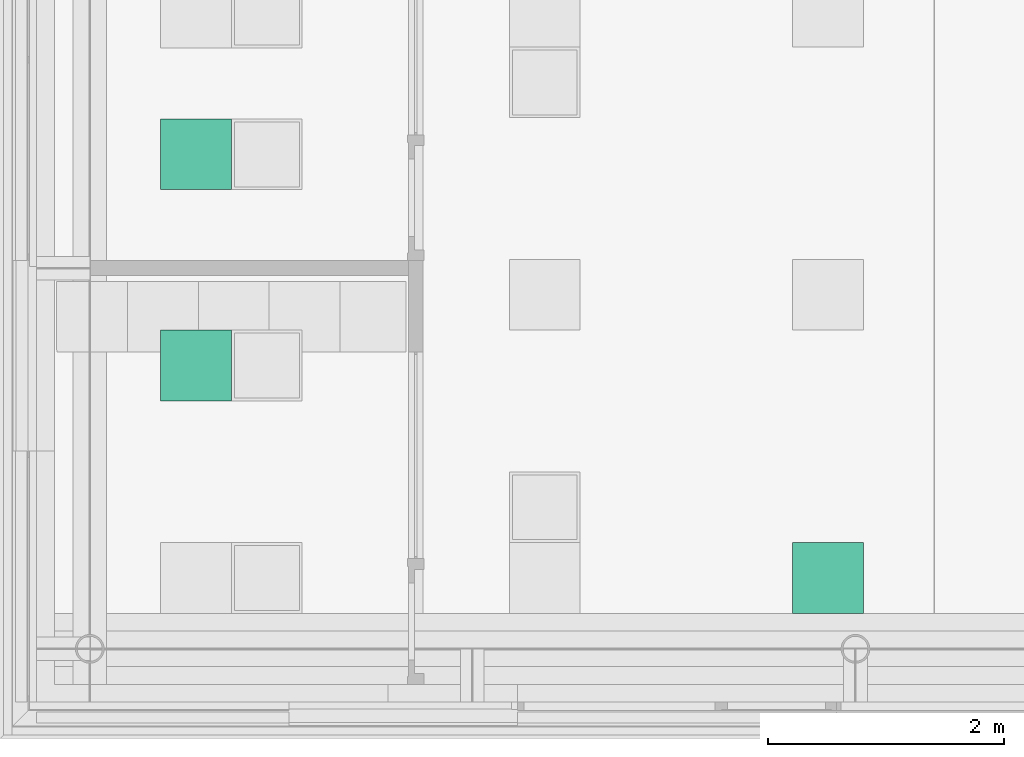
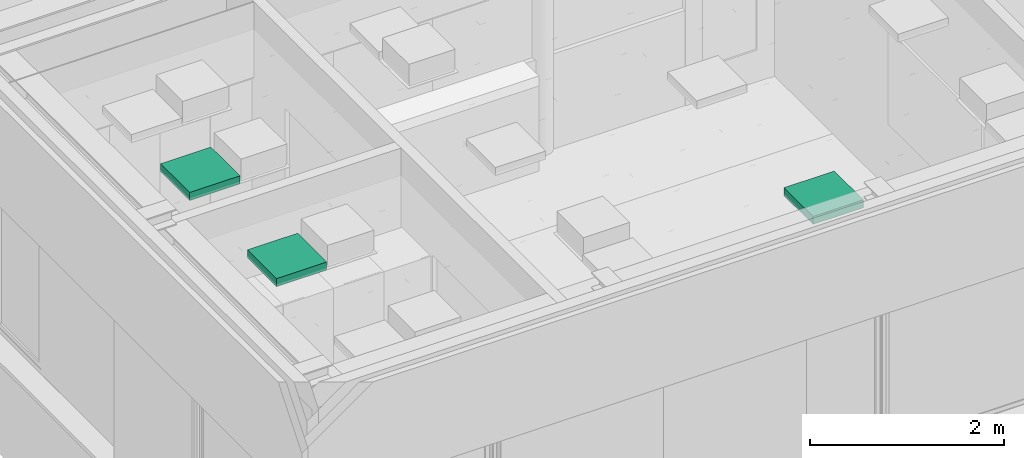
# One storey, part 183 of 347: 3 flow terminals.
"""IFC2X3 building model written with IfcOpenShell, lengths in millimetres."""

from ifc_helpers import new_model, entity, si_unit, converted_unit, derived_unit, money_unit, direction, frame, origin_with_axes, place, context, subcontext, project, spatial, open_shell, faceted_brep, surface_model, source, transform, mapped, type_object, type_shapes, element, save


model = new_model("IFC2X3")

# Units and contexts
model_context = context("Model", 3, precision=0.01, world=origin_with_axes(), true_north=direction((0.0, 1.0)))
plan_context = context("Plan", 3, precision=0.01, world=origin_with_axes(), true_north=direction((0.0, 1.0)))
body_context = subcontext(model_context, "Body", "Model", "MODEL_VIEW")
ifc_project = project(units=[si_unit("LENGTHUNIT", "METRE", prefix="MILLI"), si_unit("AREAUNIT", "SQUARE_METRE"), si_unit("VOLUMEUNIT", "CUBIC_METRE"), converted_unit("PLANEANGLEUNIT", "DEGREE", entity("IfcPlaneAngleMeasure", 0.0174532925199), si_unit("PLANEANGLEUNIT", "RADIAN"), dimensions=[0, 0, 0, 0, 0, 0, 0]), money_unit("EUR"), converted_unit("TIMEUNIT", "Year", entity("IfcTimeMeasure", 31556926.0), si_unit("TIMEUNIT", "SECOND"), dimensions=[0, 0, 1, 0, 0, 0, 0]), si_unit("MASSUNIT", "GRAM", prefix="KILO"), si_unit("THERMODYNAMICTEMPERATUREUNIT", "DEGREE_CELSIUS"), si_unit("LUMINOUSINTENSITYUNIT", "LUMEN"), si_unit("ENERGYUNIT", "JOULE", prefix="MEGA"), derived_unit("THERMALCONDUCTANCEUNIT", [(si_unit("POWERUNIT", "WATT"), 1), (si_unit("LENGTHUNIT", "METRE"), -1), (si_unit("THERMODYNAMICTEMPERATUREUNIT", "KELVIN"), -1)]), derived_unit("SPECIFICHEATCAPACITYUNIT", [(si_unit("ENERGYUNIT", "JOULE"), 1), (si_unit("MASSUNIT", "GRAM", prefix="KILO"), -1), (si_unit("THERMODYNAMICTEMPERATUREUNIT", "KELVIN"), -1)]), derived_unit("MASSDENSITYUNIT", [(si_unit("MASSUNIT", "GRAM", prefix="KILO"), 1), (si_unit("VOLUMEUNIT", "CUBIC_METRE"), -1)])], contexts=[model_context, plan_context])

# Site, building, storey
site_placement = place(None, origin_with_axes())
site = spatial("IfcSite", under=ifc_project, at=site_placement, Name="Site", CompositionType="ELEMENT")
building_placement = place(site_placement, origin_with_axes())
building = spatial("IfcBuilding", under=site, at=building_placement, Name="Naam gebouw", CompositionType="ELEMENT")
storey_placement = place(building_placement, origin_with_axes())
storey = spatial("IfcBuildingStorey", under=building, at=storey_placement, Name="begane grond", CompositionType="ELEMENT", Elevation=0.0)

# Flow terminals
lamp_type = type_object("IfcLampType", Name="TL plafond 25", PredefinedType="NOTDEFINED")
shared_shape = source(origin_with_axes(), body_context, "Body", "SurfaceModel", [
    faceted_brep([(0.0, 0.0, -100.0), (600.0, 0.0, -100.0), (600.0, 0.0, 0.0), (0.0, 0.0, 0.0), (0.0, 600.0, -100.0), (600.0, 600.0, -100.0), (40.0, 40.0, -100.0), (560.0, 40.0, -100.0), (560.0, 560.0, -100.0), (40.0, 560.0, -100.0), (600.0, 600.0, 0.0), (0.0, 600.0, 0.0), (40.0, 40.0, 0.0), (40.0, 560.0, 0.0), (560.0, 560.0, 0.0), (560.0, 40.0, 0.0)], [[[0, 1, 2, 3]], [[0, 4, 5, 1], [6, 7, 8, 9]], [[1, 5, 10, 2]], [[3, 2, 10, 11], [12, 13, 14, 15]], [[4, 0, 3, 11]], [[5, 4, 11, 10]], [[7, 6, 12, 15]], [[8, 7, 15, 14]], [[9, 8, 14, 13]], [[6, 9, 13, 12]]]),
    faceted_brep([(40.0, 40.0, -16.3333333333), (560.0, 40.0, -16.3333333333), (560.0, 40.0, 0.0), (40.0, 40.0, 0.0), (40.0, 560.0, -16.3333333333), (560.0, 560.0, -16.3333333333), (560.0, 560.0, 0.0), (40.0, 560.0, 0.0)], [[[0, 1, 2, 3]], [[0, 4, 5, 1]], [[1, 5, 6, 2]], [[3, 2, 6, 7]], [[4, 0, 3, 7]], [[5, 4, 7, 6]]]),
    surface_model("IfcShellBasedSurfaceModel", [(559.0, 41.0, -100.0), (40.0, 41.0, -100.0), (40.0, 559.0, -100.0), (559.0, 559.0, -100.0)], [open_shell([[[0, 1, 2, 3]]])]),
    faceted_brep([(40.0, 40.0, -100.0), (560.0, 40.0, -100.0), (560.0, 40.0, -60.0), (40.0, 40.0, -60.0), (40.0, 560.0, -100.0), (560.0, 560.0, -100.0), (41.0, 41.0, -100.0), (559.0, 41.0, -100.0), (559.0, 559.0, -100.0), (41.0, 559.0, -100.0), (560.0, 560.0, -60.0), (40.0, 560.0, -60.0), (41.0, 41.0, -60.0), (41.0, 559.0, -60.0), (559.0, 559.0, -60.0), (559.0, 41.0, -60.0)], [[[0, 1, 2, 3]], [[0, 4, 5, 1], [6, 7, 8, 9]], [[1, 5, 10, 2]], [[3, 2, 10, 11], [12, 13, 14, 15]], [[4, 0, 3, 11]], [[5, 4, 11, 10]], [[7, 6, 12, 15]], [[8, 7, 15, 14]], [[9, 8, 14, 13]], [[6, 9, 13, 12]]]),
    faceted_brep([(40.0, 144.0, -48.3333333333), (40.0, 149.740251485, -47.191526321), (560.0, 149.740251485, -47.191526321), (560.0, 144.0, -48.3333333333), (40.0, 138.259748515, -47.191526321), (40.0, 133.393398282, -43.9399350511), (40.0, 130.141807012, -39.0735848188), (40.0, 129.0, -33.3333333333), (40.0, 130.141807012, -27.5930818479), (40.0, 133.393398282, -22.7267316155), (40.0, 138.259748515, -19.4751403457), (40.0, 144.0, -18.3333333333), (40.0, 149.740251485, -19.4751403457), (40.0, 154.606601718, -22.7267316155), (40.0, 157.858192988, -27.5930818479), (40.0, 159.0, -33.3333333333), (40.0, 157.858192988, -39.0735848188), (40.0, 154.606601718, -43.9399350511), (40.0, 144.0, -46.3333333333), (40.0, 148.974884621, -45.343767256), (40.0, 153.192388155, -42.5257214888), (40.0, 156.010433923, -38.3082179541), (40.0, 157.0, -33.3333333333), (40.0, 156.010433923, -28.3584487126), (40.0, 153.192388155, -24.1409451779), (40.0, 148.974884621, -21.3228994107), (40.0, 144.0, -20.3333333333), (40.0, 139.025115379, -21.3228994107), (40.0, 134.807611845, -24.1409451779), (40.0, 131.989566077, -28.3584487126), (40.0, 131.0, -33.3333333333), (40.0, 131.989566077, -38.3082179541), (40.0, 134.807611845, -42.5257214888), (40.0, 139.025115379, -45.343767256), (560.0, 154.606601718, -43.9399350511), (560.0, 157.858192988, -39.0735848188), (560.0, 159.0, -33.3333333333), (560.0, 157.858192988, -27.5930818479), (560.0, 154.606601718, -22.7267316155), (560.0, 149.740251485, -19.4751403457), (560.0, 144.0, -18.3333333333), (560.0, 138.259748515, -19.4751403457), (560.0, 133.393398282, -22.7267316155), (560.0, 130.141807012, -27.5930818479), (560.0, 129.0, -33.3333333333), (560.0, 130.141807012, -39.0735848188), (560.0, 133.393398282, -43.9399350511), (560.0, 138.259748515, -47.191526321), (560.0, 144.0, -46.3333333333), (560.0, 139.025115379, -45.343767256), (560.0, 134.807611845, -42.5257214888), (560.0, 131.989566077, -38.3082179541), (560.0, 131.0, -33.3333333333), (560.0, 131.989566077, -28.3584487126), (560.0, 134.807611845, -24.1409451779), (560.0, 139.025115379, -21.3228994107), (560.0, 144.0, -20.3333333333), (560.0, 148.974884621, -21.3228994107), (560.0, 153.192388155, -24.1409451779), (560.0, 156.010433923, -28.3584487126), (560.0, 157.0, -33.3333333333), (560.0, 156.010433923, -38.3082179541), (560.0, 153.192388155, -42.5257214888), (560.0, 148.974884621, -45.343767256)], [[[0, 1, 2, 3]], [[0, 4, 5, 6, 7, 8, 9, 10, 11, 12, 13, 14, 15, 16, 17, 1], [18, 19, 20, 21, 22, 23, 24, 25, 26, 27, 28, 29, 30, 31, 32, 33]], [[1, 17, 34, 2]], [[3, 2, 34, 35, 36, 37, 38, 39, 40, 41, 42, 43, 44, 45, 46, 47], [48, 49, 50, 51, 52, 53, 54, 55, 56, 57, 58, 59, 60, 61, 62, 63]], [[4, 0, 3, 47]], [[5, 4, 47, 46]], [[6, 5, 46, 45]], [[7, 6, 45, 44]], [[8, 7, 44, 43]], [[9, 8, 43, 42]], [[10, 9, 42, 41]], [[11, 10, 41, 40]], [[12, 11, 40, 39]], [[13, 12, 39, 38]], [[14, 13, 38, 37]], [[15, 14, 37, 36]], [[16, 15, 36, 35]], [[17, 16, 35, 34]], [[19, 18, 48, 63]], [[20, 19, 63, 62]], [[21, 20, 62, 61]], [[22, 21, 61, 60]], [[23, 22, 60, 59]], [[24, 23, 59, 58]], [[25, 24, 58, 57]], [[26, 25, 57, 56]], [[27, 26, 56, 55]], [[28, 27, 55, 54]], [[29, 28, 54, 53]], [[30, 29, 53, 52]], [[31, 30, 52, 51]], [[32, 31, 51, 50]], [[33, 32, 50, 49]], [[18, 33, 49, 48]]]),
    faceted_brep([(40.0, 248.0, -48.3333333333), (40.0, 253.740251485, -47.191526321), (560.0, 253.740251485, -47.191526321), (560.0, 248.0, -48.3333333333), (40.0, 242.259748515, -47.191526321), (40.0, 237.393398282, -43.9399350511), (40.0, 234.141807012, -39.0735848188), (40.0, 233.0, -33.3333333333), (40.0, 234.141807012, -27.5930818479), (40.0, 237.393398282, -22.7267316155), (40.0, 242.259748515, -19.4751403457), (40.0, 248.0, -18.3333333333), (40.0, 253.740251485, -19.4751403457), (40.0, 258.606601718, -22.7267316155), (40.0, 261.858192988, -27.5930818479), (40.0, 263.0, -33.3333333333), (40.0, 261.858192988, -39.0735848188), (40.0, 258.606601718, -43.9399350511), (40.0, 248.0, -46.3333333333), (40.0, 252.974884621, -45.343767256), (40.0, 257.192388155, -42.5257214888), (40.0, 260.010433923, -38.3082179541), (40.0, 261.0, -33.3333333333), (40.0, 260.010433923, -28.3584487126), (40.0, 257.192388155, -24.1409451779), (40.0, 252.974884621, -21.3228994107), (40.0, 248.0, -20.3333333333), (40.0, 243.025115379, -21.3228994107), (40.0, 238.807611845, -24.1409451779), (40.0, 235.989566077, -28.3584487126), (40.0, 235.0, -33.3333333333), (40.0, 235.989566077, -38.3082179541), (40.0, 238.807611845, -42.5257214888), (40.0, 243.025115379, -45.343767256), (560.0, 258.606601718, -43.9399350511), (560.0, 261.858192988, -39.0735848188), (560.0, 263.0, -33.3333333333), (560.0, 261.858192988, -27.5930818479), (560.0, 258.606601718, -22.7267316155), (560.0, 253.740251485, -19.4751403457), (560.0, 248.0, -18.3333333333), (560.0, 242.259748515, -19.4751403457), (560.0, 237.393398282, -22.7267316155), (560.0, 234.141807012, -27.5930818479), (560.0, 233.0, -33.3333333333), (560.0, 234.141807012, -39.0735848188), (560.0, 237.393398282, -43.9399350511), (560.0, 242.259748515, -47.191526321), (560.0, 248.0, -46.3333333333), (560.0, 243.025115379, -45.343767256), (560.0, 238.807611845, -42.5257214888), (560.0, 235.989566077, -38.3082179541), (560.0, 235.0, -33.3333333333), (560.0, 235.989566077, -28.3584487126), (560.0, 238.807611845, -24.1409451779), (560.0, 243.025115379, -21.3228994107), (560.0, 248.0, -20.3333333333), (560.0, 252.974884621, -21.3228994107), (560.0, 257.192388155, -24.1409451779), (560.0, 260.010433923, -28.3584487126), (560.0, 261.0, -33.3333333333), (560.0, 260.010433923, -38.3082179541), (560.0, 257.192388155, -42.5257214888), (560.0, 252.974884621, -45.343767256)], [[[0, 1, 2, 3]], [[0, 4, 5, 6, 7, 8, 9, 10, 11, 12, 13, 14, 15, 16, 17, 1], [18, 19, 20, 21, 22, 23, 24, 25, 26, 27, 28, 29, 30, 31, 32, 33]], [[1, 17, 34, 2]], [[3, 2, 34, 35, 36, 37, 38, 39, 40, 41, 42, 43, 44, 45, 46, 47], [48, 49, 50, 51, 52, 53, 54, 55, 56, 57, 58, 59, 60, 61, 62, 63]], [[4, 0, 3, 47]], [[5, 4, 47, 46]], [[6, 5, 46, 45]], [[7, 6, 45, 44]], [[8, 7, 44, 43]], [[9, 8, 43, 42]], [[10, 9, 42, 41]], [[11, 10, 41, 40]], [[12, 11, 40, 39]], [[13, 12, 39, 38]], [[14, 13, 38, 37]], [[15, 14, 37, 36]], [[16, 15, 36, 35]], [[17, 16, 35, 34]], [[19, 18, 48, 63]], [[20, 19, 63, 62]], [[21, 20, 62, 61]], [[22, 21, 61, 60]], [[23, 22, 60, 59]], [[24, 23, 59, 58]], [[25, 24, 58, 57]], [[26, 25, 57, 56]], [[27, 26, 56, 55]], [[28, 27, 55, 54]], [[29, 28, 54, 53]], [[30, 29, 53, 52]], [[31, 30, 52, 51]], [[32, 31, 51, 50]], [[33, 32, 50, 49]], [[18, 33, 49, 48]]]),
    faceted_brep([(40.0, 352.0, -48.3333333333), (40.0, 357.740251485, -47.191526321), (560.0, 357.740251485, -47.191526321), (560.0, 352.0, -48.3333333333), (40.0, 346.259748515, -47.191526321), (40.0, 341.393398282, -43.9399350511), (40.0, 338.141807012, -39.0735848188), (40.0, 337.0, -33.3333333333), (40.0, 338.141807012, -27.5930818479), (40.0, 341.393398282, -22.7267316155), (40.0, 346.259748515, -19.4751403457), (40.0, 352.0, -18.3333333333), (40.0, 357.740251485, -19.4751403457), (40.0, 362.606601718, -22.7267316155), (40.0, 365.858192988, -27.5930818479), (40.0, 367.0, -33.3333333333), (40.0, 365.858192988, -39.0735848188), (40.0, 362.606601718, -43.9399350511), (40.0, 352.0, -46.3333333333), (40.0, 356.974884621, -45.343767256), (40.0, 361.192388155, -42.5257214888), (40.0, 364.010433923, -38.3082179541), (40.0, 365.0, -33.3333333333), (40.0, 364.010433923, -28.3584487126), (40.0, 361.192388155, -24.1409451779), (40.0, 356.974884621, -21.3228994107), (40.0, 352.0, -20.3333333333), (40.0, 347.025115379, -21.3228994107), (40.0, 342.807611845, -24.1409451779), (40.0, 339.989566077, -28.3584487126), (40.0, 339.0, -33.3333333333), (40.0, 339.989566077, -38.3082179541), (40.0, 342.807611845, -42.5257214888), (40.0, 347.025115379, -45.343767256), (560.0, 362.606601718, -43.9399350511), (560.0, 365.858192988, -39.0735848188), (560.0, 367.0, -33.3333333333), (560.0, 365.858192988, -27.5930818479), (560.0, 362.606601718, -22.7267316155), (560.0, 357.740251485, -19.4751403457), (560.0, 352.0, -18.3333333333), (560.0, 346.259748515, -19.4751403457), (560.0, 341.393398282, -22.7267316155), (560.0, 338.141807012, -27.5930818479), (560.0, 337.0, -33.3333333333), (560.0, 338.141807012, -39.0735848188), (560.0, 341.393398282, -43.9399350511), (560.0, 346.259748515, -47.191526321), (560.0, 352.0, -46.3333333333), (560.0, 347.025115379, -45.343767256), (560.0, 342.807611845, -42.5257214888), (560.0, 339.989566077, -38.3082179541), (560.0, 339.0, -33.3333333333), (560.0, 339.989566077, -28.3584487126), (560.0, 342.807611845, -24.1409451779), (560.0, 347.025115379, -21.3228994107), (560.0, 352.0, -20.3333333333), (560.0, 356.974884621, -21.3228994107), (560.0, 361.192388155, -24.1409451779), (560.0, 364.010433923, -28.3584487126), (560.0, 365.0, -33.3333333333), (560.0, 364.010433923, -38.3082179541), (560.0, 361.192388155, -42.5257214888), (560.0, 356.974884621, -45.343767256)], [[[0, 1, 2, 3]], [[0, 4, 5, 6, 7, 8, 9, 10, 11, 12, 13, 14, 15, 16, 17, 1], [18, 19, 20, 21, 22, 23, 24, 25, 26, 27, 28, 29, 30, 31, 32, 33]], [[1, 17, 34, 2]], [[3, 2, 34, 35, 36, 37, 38, 39, 40, 41, 42, 43, 44, 45, 46, 47], [48, 49, 50, 51, 52, 53, 54, 55, 56, 57, 58, 59, 60, 61, 62, 63]], [[4, 0, 3, 47]], [[5, 4, 47, 46]], [[6, 5, 46, 45]], [[7, 6, 45, 44]], [[8, 7, 44, 43]], [[9, 8, 43, 42]], [[10, 9, 42, 41]], [[11, 10, 41, 40]], [[12, 11, 40, 39]], [[13, 12, 39, 38]], [[14, 13, 38, 37]], [[15, 14, 37, 36]], [[16, 15, 36, 35]], [[17, 16, 35, 34]], [[19, 18, 48, 63]], [[20, 19, 63, 62]], [[21, 20, 62, 61]], [[22, 21, 61, 60]], [[23, 22, 60, 59]], [[24, 23, 59, 58]], [[25, 24, 58, 57]], [[26, 25, 57, 56]], [[27, 26, 56, 55]], [[28, 27, 55, 54]], [[29, 28, 54, 53]], [[30, 29, 53, 52]], [[31, 30, 52, 51]], [[32, 31, 51, 50]], [[33, 32, 50, 49]], [[18, 33, 49, 48]]]),
    faceted_brep([(40.0, 456.0, -48.3333333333), (40.0, 461.740251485, -47.191526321), (560.0, 461.740251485, -47.191526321), (560.0, 456.0, -48.3333333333), (40.0, 450.259748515, -47.191526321), (40.0, 445.393398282, -43.9399350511), (40.0, 442.141807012, -39.0735848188), (40.0, 441.0, -33.3333333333), (40.0, 442.141807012, -27.5930818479), (40.0, 445.393398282, -22.7267316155), (40.0, 450.259748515, -19.4751403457), (40.0, 456.0, -18.3333333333), (40.0, 461.740251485, -19.4751403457), (40.0, 466.606601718, -22.7267316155), (40.0, 469.858192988, -27.5930818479), (40.0, 471.0, -33.3333333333), (40.0, 469.858192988, -39.0735848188), (40.0, 466.606601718, -43.9399350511), (40.0, 456.0, -46.3333333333), (40.0, 460.974884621, -45.343767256), (40.0, 465.192388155, -42.5257214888), (40.0, 468.010433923, -38.3082179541), (40.0, 469.0, -33.3333333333), (40.0, 468.010433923, -28.3584487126), (40.0, 465.192388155, -24.1409451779), (40.0, 460.974884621, -21.3228994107), (40.0, 456.0, -20.3333333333), (40.0, 451.025115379, -21.3228994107), (40.0, 446.807611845, -24.1409451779), (40.0, 443.989566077, -28.3584487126), (40.0, 443.0, -33.3333333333), (40.0, 443.989566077, -38.3082179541), (40.0, 446.807611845, -42.5257214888), (40.0, 451.025115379, -45.343767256), (560.0, 466.606601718, -43.9399350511), (560.0, 469.858192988, -39.0735848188), (560.0, 471.0, -33.3333333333), (560.0, 469.858192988, -27.5930818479), (560.0, 466.606601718, -22.7267316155), (560.0, 461.740251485, -19.4751403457), (560.0, 456.0, -18.3333333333), (560.0, 450.259748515, -19.4751403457), (560.0, 445.393398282, -22.7267316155), (560.0, 442.141807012, -27.5930818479), (560.0, 441.0, -33.3333333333), (560.0, 442.141807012, -39.0735848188), (560.0, 445.393398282, -43.9399350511), (560.0, 450.259748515, -47.191526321), (560.0, 456.0, -46.3333333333), (560.0, 451.025115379, -45.343767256), (560.0, 446.807611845, -42.5257214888), (560.0, 443.989566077, -38.3082179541), (560.0, 443.0, -33.3333333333), (560.0, 443.989566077, -28.3584487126), (560.0, 446.807611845, -24.1409451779), (560.0, 451.025115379, -21.3228994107), (560.0, 456.0, -20.3333333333), (560.0, 460.974884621, -21.3228994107), (560.0, 465.192388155, -24.1409451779), (560.0, 468.010433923, -28.3584487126), (560.0, 469.0, -33.3333333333), (560.0, 468.010433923, -38.3082179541), (560.0, 465.192388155, -42.5257214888), (560.0, 460.974884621, -45.343767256)], [[[0, 1, 2, 3]], [[0, 4, 5, 6, 7, 8, 9, 10, 11, 12, 13, 14, 15, 16, 17, 1], [18, 19, 20, 21, 22, 23, 24, 25, 26, 27, 28, 29, 30, 31, 32, 33]], [[1, 17, 34, 2]], [[3, 2, 34, 35, 36, 37, 38, 39, 40, 41, 42, 43, 44, 45, 46, 47], [48, 49, 50, 51, 52, 53, 54, 55, 56, 57, 58, 59, 60, 61, 62, 63]], [[4, 0, 3, 47]], [[5, 4, 47, 46]], [[6, 5, 46, 45]], [[7, 6, 45, 44]], [[8, 7, 44, 43]], [[9, 8, 43, 42]], [[10, 9, 42, 41]], [[11, 10, 41, 40]], [[12, 11, 40, 39]], [[13, 12, 39, 38]], [[14, 13, 38, 37]], [[15, 14, 37, 36]], [[16, 15, 36, 35]], [[17, 16, 35, 34]], [[19, 18, 48, 63]], [[20, 19, 63, 62]], [[21, 20, 62, 61]], [[22, 21, 61, 60]], [[23, 22, 60, 59]], [[24, 23, 59, 58]], [[25, 24, 58, 57]], [[26, 25, 57, 56]], [[27, 26, 56, 55]], [[28, 27, 55, 54]], [[29, 28, 54, 53]], [[30, 29, 53, 52]], [[31, 30, 52, 51]], [[32, 31, 51, 50]], [[33, 32, 50, 49]], [[18, 33, 49, 48]]]),
])
type_shapes(lamp_type, [shared_shape])
for number, where, z_axis, x_axis, name in (
    (1, (11255.0, 5599.99997201, 3295.0), (0.0, 0.0, 1.0), (1.0, 0.0, 0.0), "63_Lamp-x"),
    (2, (5900.0, 7399.99997201, 3295.0), (0.0, 0.0, 1.0), (1.0, 0.0, 0.0), "63_Lamp-x"),
    (3, (5900.0, 9189.99997201, 3295.0), (0.0, 0.0, 1.0), (1.0, 0.0, 0.0), "63_Lamp-x"),
):
    element("IfcFlowTerminal", number, at=place(storey_placement, frame(where, z_axis=z_axis, x_axis=x_axis)), inside=storey, type_object=lamp_type, Name=name, ObjectType="Lamp", context=body_context, shape_type="MappedRepresentation", body=[
        mapped(shared_shape, transform((0.0, 0.0, 0.0))),
    ])

save(model, "model.ifc")
